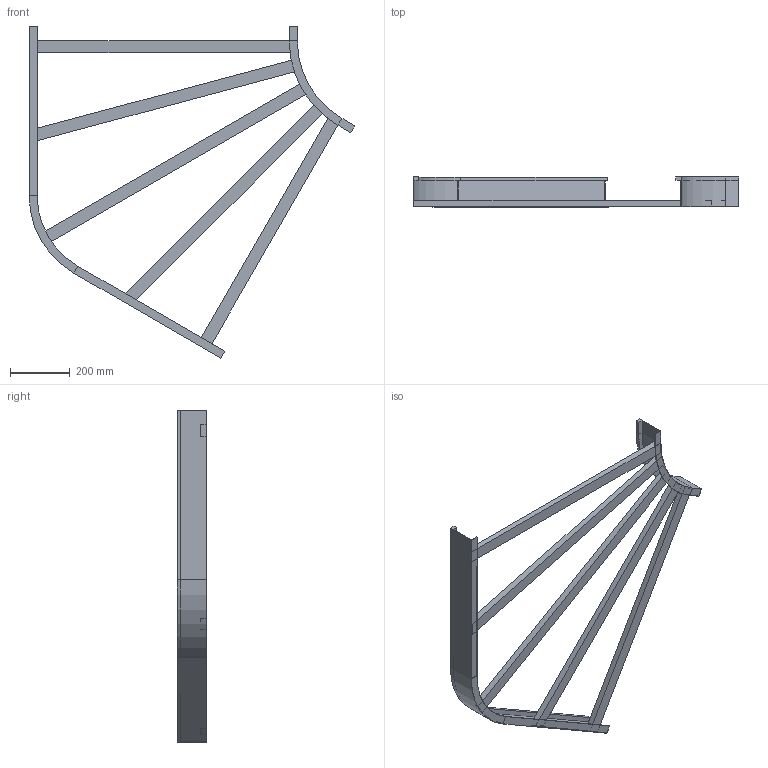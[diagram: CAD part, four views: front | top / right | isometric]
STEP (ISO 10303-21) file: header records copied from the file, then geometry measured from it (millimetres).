
FILE_DESCRIPTION (( 'STEP AP214' ), '1' );
FILE_NAME ('B2_13B3D900.step', '2025-02-21T15:18:38', ( '' ), ( '' ), 'SwSTEP 2.0', 'SolidWorks 2023', '' );
FILE_SCHEMA (( 'AUTOMOTIVE_DESIGN' ));
Length unit declared in the file: millimetre
Products named in the file (6): B2_13B3D900; TRAVERSINO_L1033; TRAVERSINO_1000_SCANTONATO; TRAVERSINO_900; B2_LONGH.INTERNO 60°_H100_R300; B2_LONGH.ESTERNO 60°_H100_R300+900
Assembly tree (7 placements, depth 2):
  B2_13B3D900
    B2_LONGH.INTERNO 60°_H100_R300
    B2_LONGH.ESTERNO 60°_H100_R300+900
    TRAVERSINO_900  x2
    TRAVERSINO_1000_SCANTONATO  x2
    TRAVERSINO_L1033
Bounding box: 1093.3 x 100 x 1114.23 mm (x, y, z)
Volume: 4629216.7 mm3; surface area: 1112261.7 mm2
Topology: 7 solids, 7 shells, 82 faces, 172 edges, 104 vertices
Faces by surface type: plane 74, cylinder 8
Entity records: 2015 total; most frequent: DIRECTION 324, CARTESIAN_POINT 316, ORIENTED_EDGE 296, EDGE_CURVE 148, VECTOR 132, LINE 132, AXIS2_PLACEMENT_3D 96, VERTEX_POINT 88
